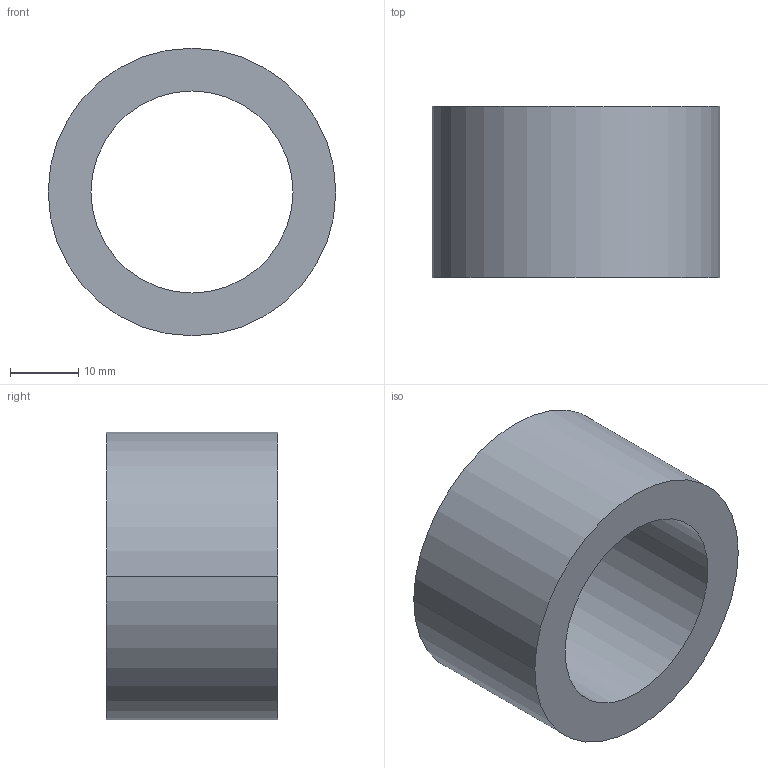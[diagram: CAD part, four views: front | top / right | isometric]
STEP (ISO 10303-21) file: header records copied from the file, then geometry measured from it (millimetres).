
FILE_DESCRIPTION (( 'STEP AP203' ), '1' );
FILE_NAME ('30800.WPP42J29.5.step', '2019-01-23T22:51:09', ( '' ), ( '' ), 'SwSTEP 2.0', 'SolidWorks 2017', '' );
FILE_SCHEMA (( 'CONFIG_CONTROL_DESIGN' ));
Length unit declared in the file: millimetre
Products named in the file (1): 30800.WPP42J29.5
Bounding box: 42 x 25 x 42 mm (x, y, z)
Volume: 17361.6 mm3; surface area: 6904.2 mm2
Topology: 1 solids, 1 shells, 8 faces, 16 edges, 10 vertices
Faces by surface type: cylinder 4, torus 2, plane 2
Entity records: 297 total; most frequent: DIRECTION 46, CARTESIAN_POINT 35, ORIENTED_EDGE 32, AXIS2_PLACEMENT_3D 21, EDGE_CURVE 16, CIRCLE 12, VERTEX_POINT 10, EDGE_LOOP 10
